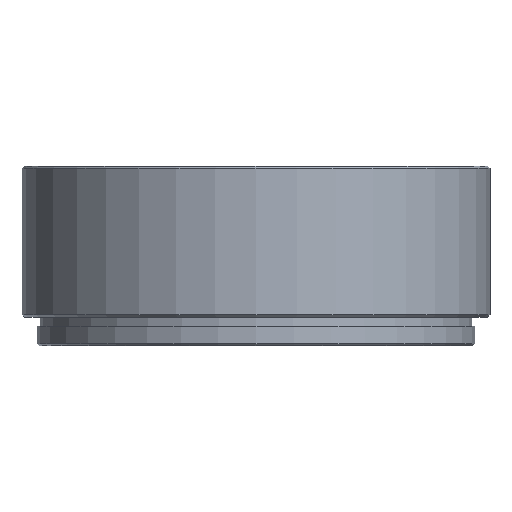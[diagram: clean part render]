
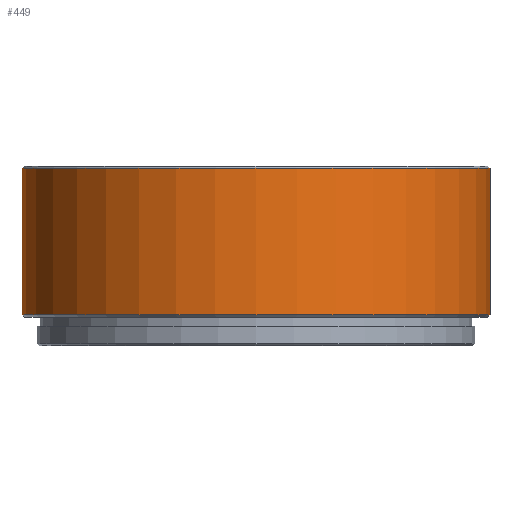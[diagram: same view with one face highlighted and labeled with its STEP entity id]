
A CAD part, front view. The second image highlights one B-rep face of the part: STEP entity #449.
In plain terms, the highlighted cylindrical face has radius 31 mm (diameter 62 mm), a full revolution.
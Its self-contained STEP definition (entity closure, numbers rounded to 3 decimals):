
#38 = CARTESIAN_POINT ( 'NONE',  ( 0., 0., 30.465 ) ) ;
#41 = DIRECTION ( 'NONE',  ( 0., 0., -1. ) ) ;
#60 = FACE_OUTER_BOUND ( 'NONE', #357, .T. ) ;
#68 = AXIS2_PLACEMENT_3D ( 'NONE', #38, #456, #353 ) ;
#77 = CIRCLE ( 'NONE', #246, 31. ) ;
#151 = EDGE_CURVE ( 'NONE', #292, #292, #263, .T. ) ;
#159 = VERTEX_POINT ( 'NONE', #241 ) ;
#192 = CARTESIAN_POINT ( 'NONE',  ( 0., 0., -15.2 ) ) ;
#232 = CYLINDRICAL_SURFACE ( 'NONE', #68, 31. ) ;
#241 = CARTESIAN_POINT ( 'NONE',  ( -31., 0., 4.2 ) ) ;
#246 = AXIS2_PLACEMENT_3D ( 'NONE', #408, #41, #294 ) ;
#263 = CIRCLE ( 'NONE', #296, 31. ) ;
#273 = EDGE_LOOP ( 'NONE', ( #365 ) ) ;
#292 = VERTEX_POINT ( 'NONE', #477 ) ;
#294 = DIRECTION ( 'NONE',  ( -1., 0., 0. ) ) ;
#296 = AXIS2_PLACEMENT_3D ( 'NONE', #192, #358, #342 ) ;
#342 = DIRECTION ( 'NONE',  ( 1., 0., 0. ) ) ;
#353 = DIRECTION ( 'NONE',  ( 1., 0., 0. ) ) ;
#355 = ORIENTED_EDGE ( 'NONE', *, *, #151, .T. ) ;
#357 = EDGE_LOOP ( 'NONE', ( #355 ) ) ;
#358 = DIRECTION ( 'NONE',  ( 0., 0., 1. ) ) ;
#365 = ORIENTED_EDGE ( 'NONE', *, *, #385, .T. ) ;
#385 = EDGE_CURVE ( 'NONE', #159, #159, #77, .T. ) ;
#408 = CARTESIAN_POINT ( 'NONE',  ( 0., 0., 4.2 ) ) ;
#449 = ADVANCED_FACE ( 'NONE', ( #60, #486 ), #232, .T. ) ;
#456 = DIRECTION ( 'NONE',  ( 0., 0., 1. ) ) ;
#477 = CARTESIAN_POINT ( 'NONE',  ( 31., 0., -15.2 ) ) ;
#486 = FACE_OUTER_BOUND ( 'NONE', #273, .T. ) ;
